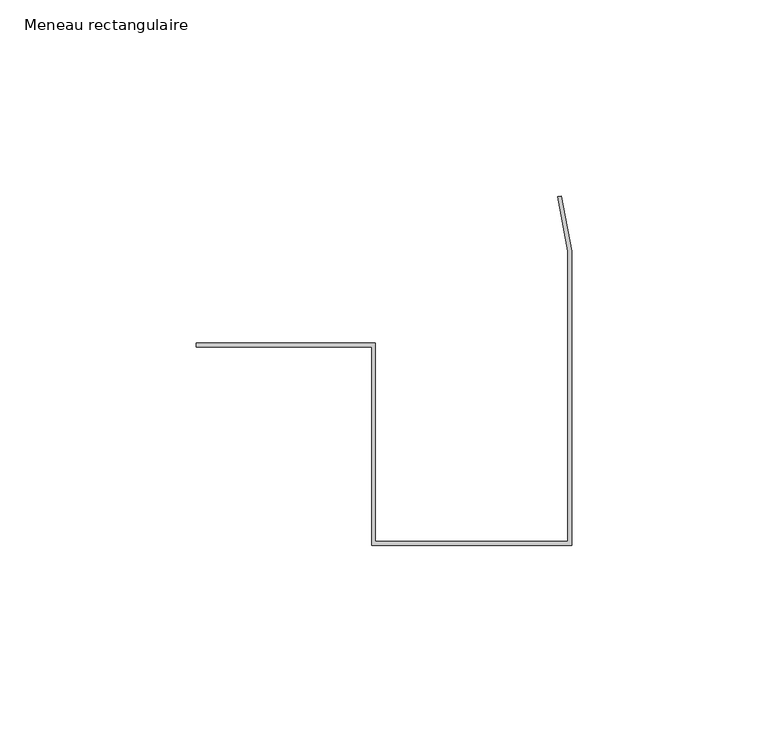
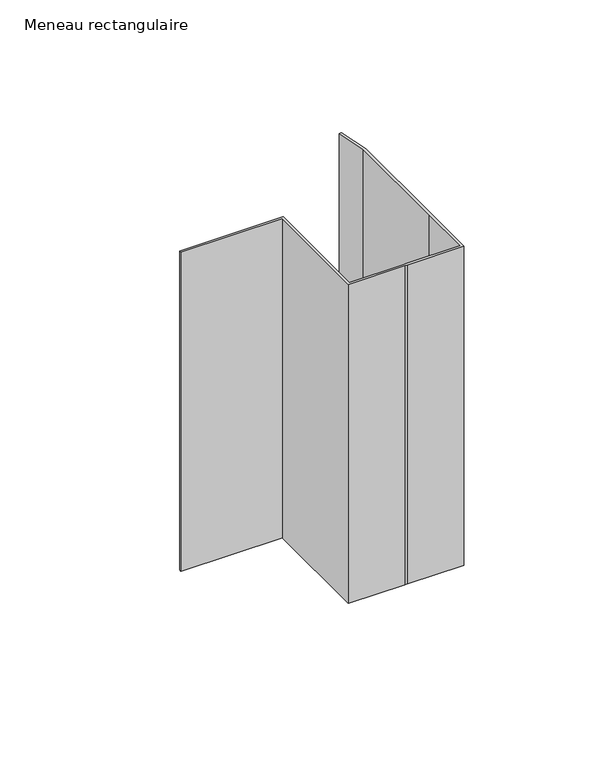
"""IFC4 building model written with IfcOpenShell, lengths in millimetres: member geometry, Meneau rectangulaire : Jonction contre mur Gauche H."""

from ifc_helpers import new_model, si_unit, frame, origin, place, context, project, spatial, polyline, outline, extrude, source, transform, mapped, element, save


def meneau_rectangulaire_81b4417d(model_context):
    return source(origin(), model_context, "Body", "SweptSolid", [
        extrude(outline(polyline([(-1.0, 26.3950161), (-3.6043568, 40.2612876), (-2.6384309, 40.4427073), (0.0, 26.3950161), (0.0, -23.6049839), (0.0, -48.6049839), (-25.0, -48.6049839), (-26.0, -48.6049839), (-51.0, -48.6049839), (-51.0, 2.0), (-95.6686418, 2.0), (-95.6686418, 3.0), (-50.0, 3.0), (-50.0, -47.6049839), (-26.0, -47.6049839), (-25.0, -47.6049839), (-1.0, -47.6049839), (-1.0, -23.6049839), (-1.0, 26.3950161)])), frame((0.0, 0.0, -149.0), z_axis=(0.0, 0.0, 1.0), x_axis=(1.0, 0.0, 0.0)), (0.0, 0.0, 1.0), 149.0),
    ])


if __name__ == "__main__":
    model = new_model("IFC4")
    model_context = context("Model", 3, world=origin())
    ifc_project = project(units=[si_unit("LENGTHUNIT", "METRE", prefix="MILLI")], contexts=[model_context])
    site = spatial("IfcSite", under=ifc_project)
    building = spatial("IfcBuilding", under=site)
    placement = place(None, origin())
    meneau_rectangulaire_shape = meneau_rectangulaire_81b4417d(model_context)
    element("IfcMember", 1, ObjectType="Meneau rectangulaire : Jonction contre mur Gauche H", at=placement, inside=building, context=model_context, shape_type="MappedRepresentation", body=[
        mapped(meneau_rectangulaire_shape, transform((0.0, 0.0, 0.0), x_axis=(1.0, 0.0, 0.0), y_axis=(0.0, 1.0, 0.0), z_axis=(0.0, 0.0, 1.0))),
    ])
    save(model, "model.ifc")
